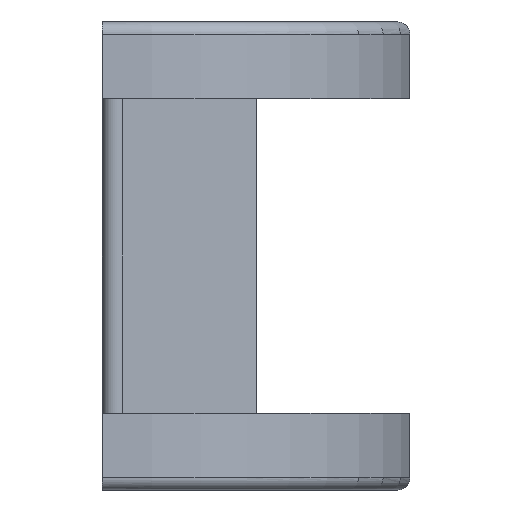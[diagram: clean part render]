
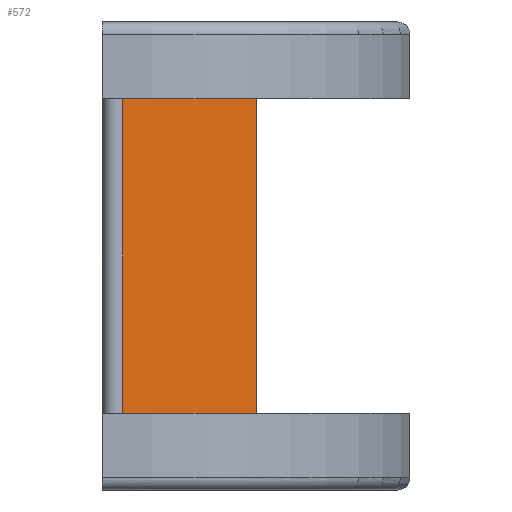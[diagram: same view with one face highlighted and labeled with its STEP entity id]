
A CAD part, front view. The second image highlights one B-rep face of the part: STEP entity #572.
In plain terms, the highlighted planar face has unit normal (0.669, -0.743, 0).
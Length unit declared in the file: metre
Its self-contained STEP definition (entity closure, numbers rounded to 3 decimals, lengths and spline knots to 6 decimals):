
#55=LINE('',#914,#105);
#66=LINE('',#943,#116);
#67=LINE('',#946,#117);
#68=LINE('',#947,#118);
#105=VECTOR('',#727,1.);
#116=VECTOR('',#754,1.);
#117=VECTOR('',#755,1.);
#118=VECTOR('',#756,1.);
#196=ORIENTED_EDGE('',*,*,#339,.F.);
#197=ORIENTED_EDGE('',*,*,#340,.T.);
#198=ORIENTED_EDGE('',*,*,#324,.T.);
#199=ORIENTED_EDGE('',*,*,#341,.F.);
#324=EDGE_CURVE('',#399,#398,#55,.T.);
#339=EDGE_CURVE('',#409,#410,#66,.T.);
#340=EDGE_CURVE('',#409,#399,#67,.T.);
#341=EDGE_CURVE('',#410,#398,#68,.T.);
#398=VERTEX_POINT('',#913);
#399=VERTEX_POINT('',#915);
#409=VERTEX_POINT('',#944);
#410=VERTEX_POINT('',#945);
#467=EDGE_LOOP('',(#196,#197,#198,#199));
#513=FACE_BOUND('',#467,.T.);
#554=PLANE('',#631);
#572=ADVANCED_FACE('',(#513),#554,.F.);
#631=AXIS2_PLACEMENT_3D('',#942,#752,#753);
#727=DIRECTION('',(0.743,0.669,0.));
#752=DIRECTION('',(-0.669,0.743,0.));
#753=DIRECTION('',(-0.743,-0.669,0.));
#754=DIRECTION('',(0.743,0.669,0.));
#755=DIRECTION('',(0.,0.,-1.));
#756=DIRECTION('',(0.,0.,-1.));
#913=CARTESIAN_POINT('',(0.,-0.071438,0.));
#914=CARTESIAN_POINT('',(-0.007938,-0.078581,0.));
#915=CARTESIAN_POINT('',(-0.013755,-0.083817,0.));
#942=CARTESIAN_POINT('',(-0.007938,-0.078581,0.032388));
#943=CARTESIAN_POINT('',(-0.007938,-0.078581,0.032388));
#944=CARTESIAN_POINT('',(-0.013755,-0.083817,0.032388));
#945=CARTESIAN_POINT('',(0.,-0.071438,0.032388));
#946=CARTESIAN_POINT('',(-0.013755,-0.083817,0.032388));
#947=CARTESIAN_POINT('',(0.,-0.071438,0.032388));
